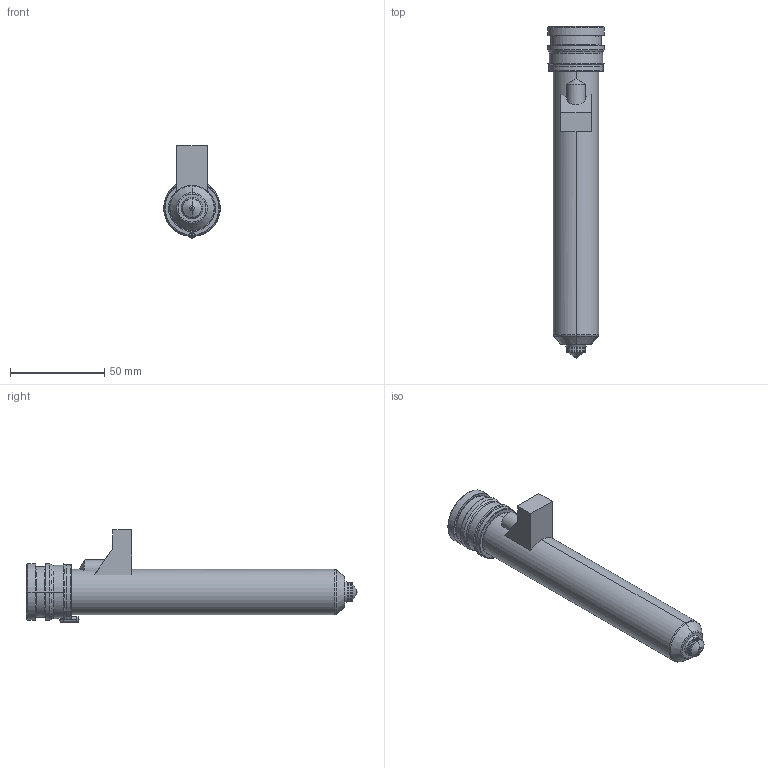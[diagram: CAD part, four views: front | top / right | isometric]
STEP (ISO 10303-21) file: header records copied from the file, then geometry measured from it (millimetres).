
FILE_DESCRIPTION((''),'2;1');
FILE_NAME('MPN-10-29-TS10-156-M','2026-02-05T12:49:53',('UPTIO'),('Thermoplay S.p.A.'),'CREO PARAMETRIC BY PTC INC, 2023494','CREO PARAMETRIC BY PTC INC, 2023494','');
FILE_SCHEMA(('CONFIG_CONTROL_DESIGN','SHAPE_APPEARANCE_LAYERS_GROUPS'));
Length unit declared in the file: millimetre
Products named in the file (1): MPN-10-29-TS10-156-M
Bounding box: 30 x 176 x 49 mm (x, y, z)
Volume: 55110.3 mm3; surface area: 56501.6 mm2
Topology: 3 solids, 5 shells, 542 faces, 1383 edges, 843 vertices
Faces by surface type: cylinder 177, plane 148, bspline 72, torus 67, cone 64, sphere 10, extrusion 4
Entity records: 29231 total; most frequent: CARTESIAN_POINT 13455, ORIENTED_EDGE 2748, DIRECTION 2578, EDGE_CURVE 1374, AXIS2_PLACEMENT_3D 1023, VERTEX_POINT 843, EDGE_LOOP 571, CIRCLE 556
